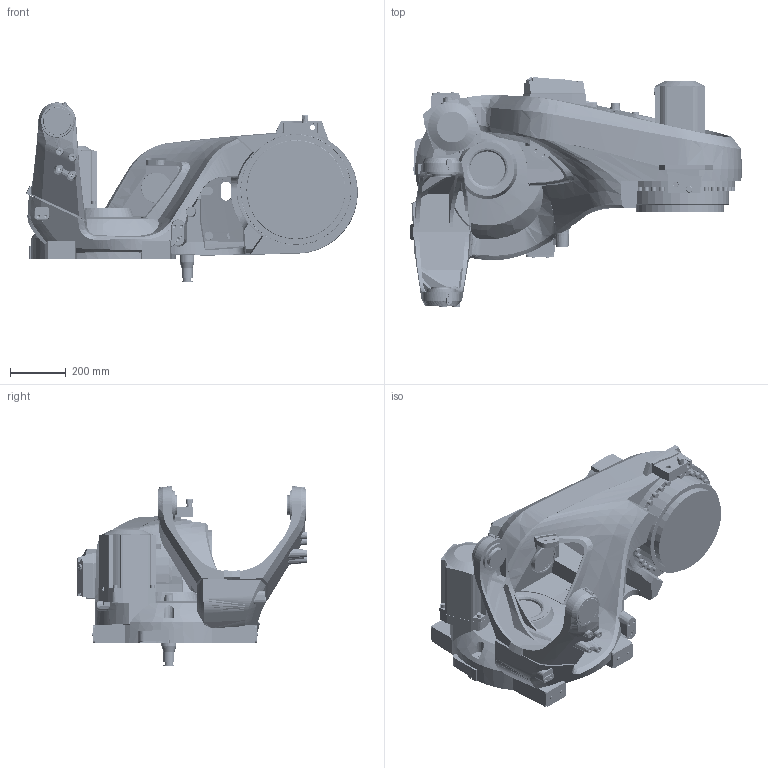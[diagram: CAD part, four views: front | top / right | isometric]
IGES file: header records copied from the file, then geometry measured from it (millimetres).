
Start section: SolidWorks IGES file using analytic representation for surfaces
Global section: file name: C:\DATA\SAP_DOC\LW\IRB 6730S\IRB6730S_210kg-350_OC_01_SW_J\export\IRB6730S_210kg-350_OC_01_IGES_J\IRB6730S_All_OC_00_LINK01_CAD.igs; native system: SolidWorks 2024; preprocessor: SolidWorks 2024; author: SEJOVAS3; date: 260526.123348; units: millimetre
Bounding box: 1189.82 x 825.3 x 646.66 mm (x, y, z)
Surface area: 3865964.3 mm2 (no closed solid volume)
Topology: 0 solids, 0 shells, 2138 faces, 34965 edges, 34873 vertices
Faces by surface type: bspline 1178, revolution 960
